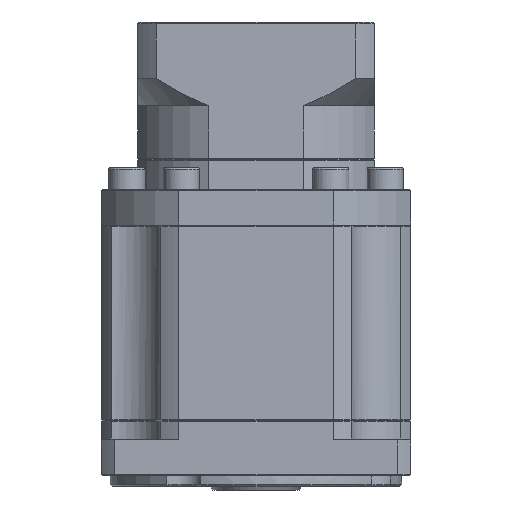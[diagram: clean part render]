
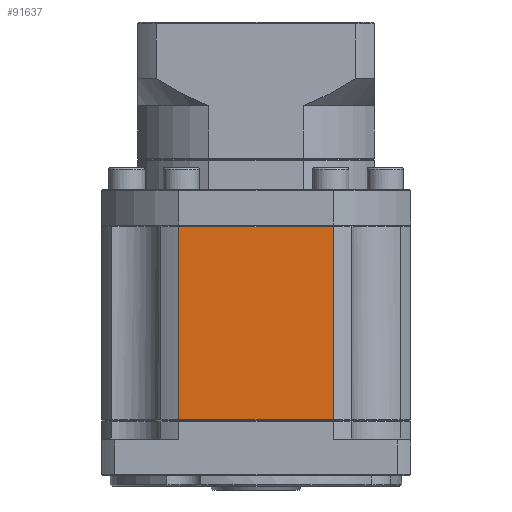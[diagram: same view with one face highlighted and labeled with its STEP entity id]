
A CAD part, front view. The second image highlights one B-rep face of the part: STEP entity #91637.
In plain terms, the highlighted planar face has unit normal (0, -1, 0).
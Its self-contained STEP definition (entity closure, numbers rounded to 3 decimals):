
#3995 = AXIS2_PLACEMENT_3D ( 'NONE', #61276, #10759, #69774 ) ;
#5085 = CARTESIAN_POINT ( 'NONE',  ( -92.753, -20.417, -22.322 ) ) ;
#5695 = DIRECTION ( 'NONE',  ( 0., 0., -1. ) ) ;
#8725 = VERTEX_POINT ( 'NONE', #87869 ) ;
#8969 = LINE ( 'NONE', #5085, #73654 ) ;
#10759 = DIRECTION ( 'NONE',  ( 0., 1., 0. ) ) ;
#12203 = CARTESIAN_POINT ( 'NONE',  ( -50.326, -20.417, -75.572 ) ) ;
#16469 = VERTEX_POINT ( 'NONE', #90292 ) ;
#26698 = EDGE_CURVE ( 'NONE', #35641, #16469, #37110, .T. ) ;
#29131 = VERTEX_POINT ( 'NONE', #104106 ) ;
#35641 = VERTEX_POINT ( 'NONE', #83834 ) ;
#37110 = LINE ( 'NONE', #98533, #101610 ) ;
#44981 = LINE ( 'NONE', #54487, #67482 ) ;
#52084 = PLANE ( 'NONE',  #3995 ) ;
#54249 = DIRECTION ( 'NONE',  ( -1., 0., 0. ) ) ;
#54487 = CARTESIAN_POINT ( 'NONE',  ( -71.54, -20.417, -22.572 ) ) ;
#55455 = FACE_OUTER_BOUND ( 'NONE', #70777, .T. ) ;
#61276 = CARTESIAN_POINT ( 'NONE',  ( -50.326, -20.417, -22.322 ) ) ;
#62946 = DIRECTION ( 'NONE',  ( 1., 0., 0. ) ) ;
#64214 = DIRECTION ( 'NONE',  ( 0., 0., 1. ) ) ;
#67482 = VECTOR ( 'NONE', #62946, 1000. ) ;
#69774 = DIRECTION ( 'NONE',  ( 0., 0., 1. ) ) ;
#69776 = VECTOR ( 'NONE', #54249, 1000. ) ;
#69827 = ORIENTED_EDGE ( 'NONE', *, *, #70388, .F. ) ;
#70030 = ORIENTED_EDGE ( 'NONE', *, *, #93797, .F. ) ;
#70388 = EDGE_CURVE ( 'NONE', #16469, #8725, #72408, .T. ) ;
#70777 = EDGE_LOOP ( 'NONE', ( #69827, #86367, #79031, #70030 ) ) ;
#72408 = LINE ( 'NONE', #12203, #69776 ) ;
#73654 = VECTOR ( 'NONE', #64214, 1000. ) ;
#75494 = EDGE_CURVE ( 'NONE', #29131, #35641, #44981, .T. ) ;
#79031 = ORIENTED_EDGE ( 'NONE', *, *, #75494, .F. ) ;
#83834 = CARTESIAN_POINT ( 'NONE',  ( -50.326, -20.417, -22.572 ) ) ;
#86367 = ORIENTED_EDGE ( 'NONE', *, *, #26698, .F. ) ;
#87869 = CARTESIAN_POINT ( 'NONE',  ( -92.753, -20.417, -75.572 ) ) ;
#90292 = CARTESIAN_POINT ( 'NONE',  ( -50.326, -20.417, -75.572 ) ) ;
#91637 = ADVANCED_FACE ( 'NONE', ( #55455 ), #52084, .F. ) ;
#93797 = EDGE_CURVE ( 'NONE', #8725, #29131, #8969, .T. ) ;
#98533 = CARTESIAN_POINT ( 'NONE',  ( -50.326, -20.417, -22.322 ) ) ;
#101610 = VECTOR ( 'NONE', #5695, 1000. ) ;
#104106 = CARTESIAN_POINT ( 'NONE',  ( -92.753, -20.417, -22.572 ) ) ;
